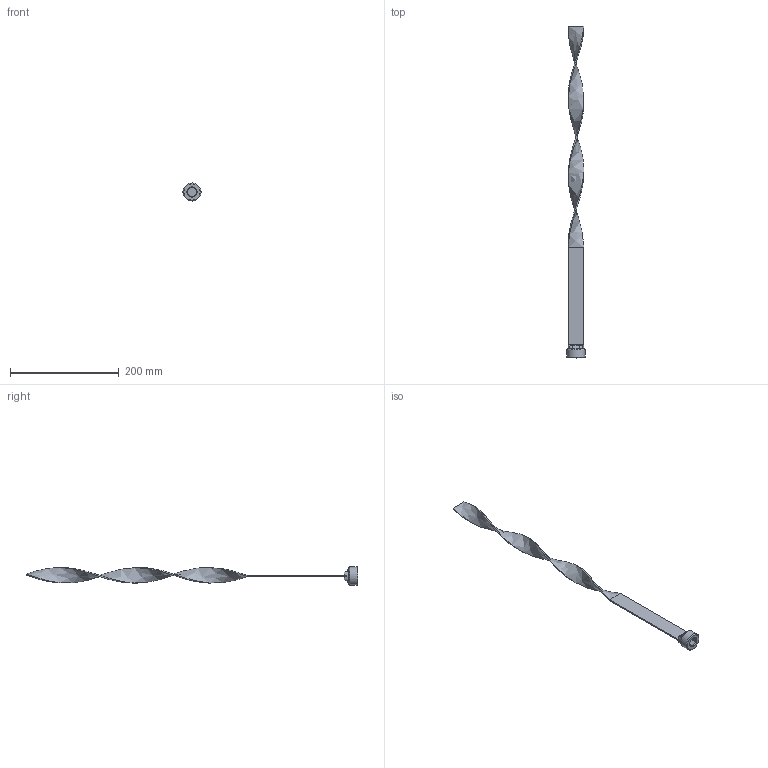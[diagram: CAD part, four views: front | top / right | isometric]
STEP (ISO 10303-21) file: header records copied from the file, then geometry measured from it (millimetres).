
FILE_DESCRIPTION(/* description */ (''),/* implementation_level */ '2;1');
FILE_NAME(/* name */ 'C:/Users/drich/Desktop/TB1X24 v1.step',/* time_stamp */ '2020-01-14T09:02:03-06:00',/* author */ (''),/* organization */ (''),/* preprocessor_version */ 'ST-DEVELOPER v18',/* originating_system */ 'Autodesk Translation Framework v8.12.0.6',/* authorisation */ '');
FILE_SCHEMA (('AUTOMOTIVE_DESIGN { 1 0 10303 214 3 1 1 }'));
Length unit declared in the file: inch
Products named in the file (1): TB1X24
Bounding box: 33.07 x 609.6 x 33.07 mm (x, y, z)
Volume: 53793.3 mm3; surface area: 41090.5 mm2
Topology: 2 solids, 2 shells, 48 faces, 122 edges, 80 vertices
Faces by surface type: plane 22, cylinder 8, bspline 8, torus 7, cone 3
Full cylindrical faces by diameter (mm): 28.169 x1, 33.069 x1
Entity records: 2240 total; most frequent: CARTESIAN_POINT 1095, ORIENTED_EDGE 244, DIRECTION 209, EDGE_CURVE 122, VERTEX_POINT 80, AXIS2_PLACEMENT_3D 80, EDGE_LOOP 50, LINE 49
